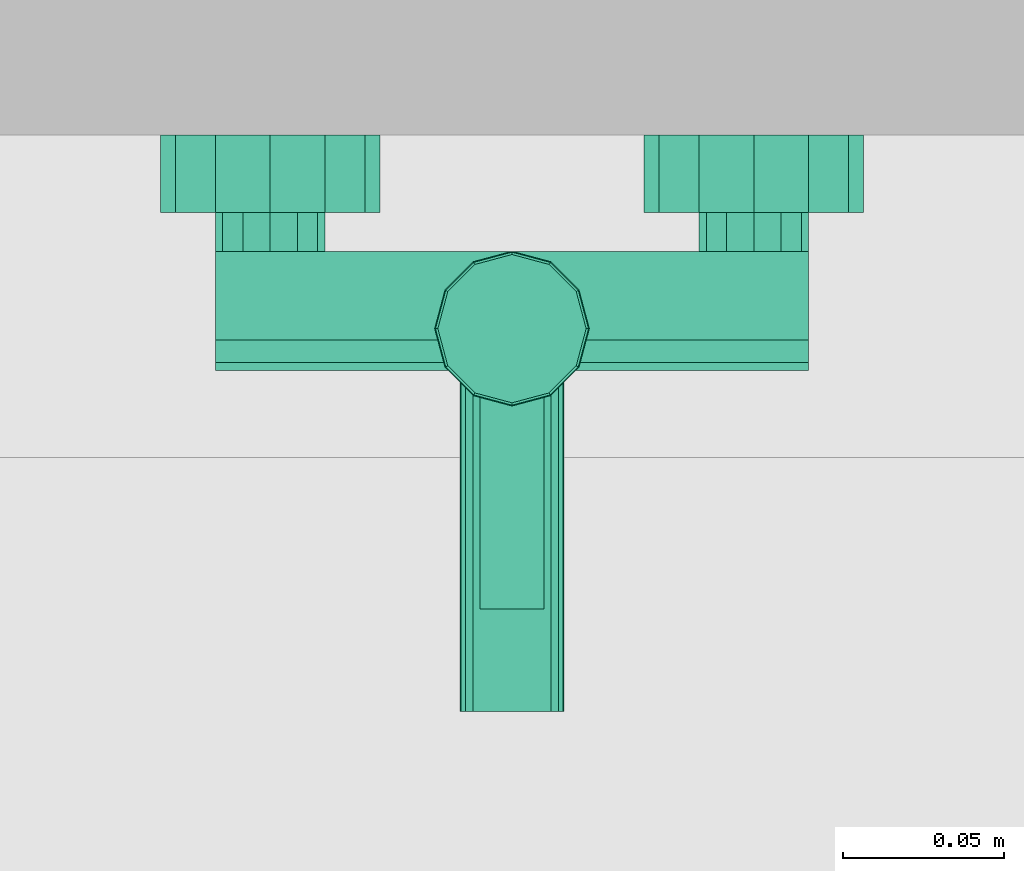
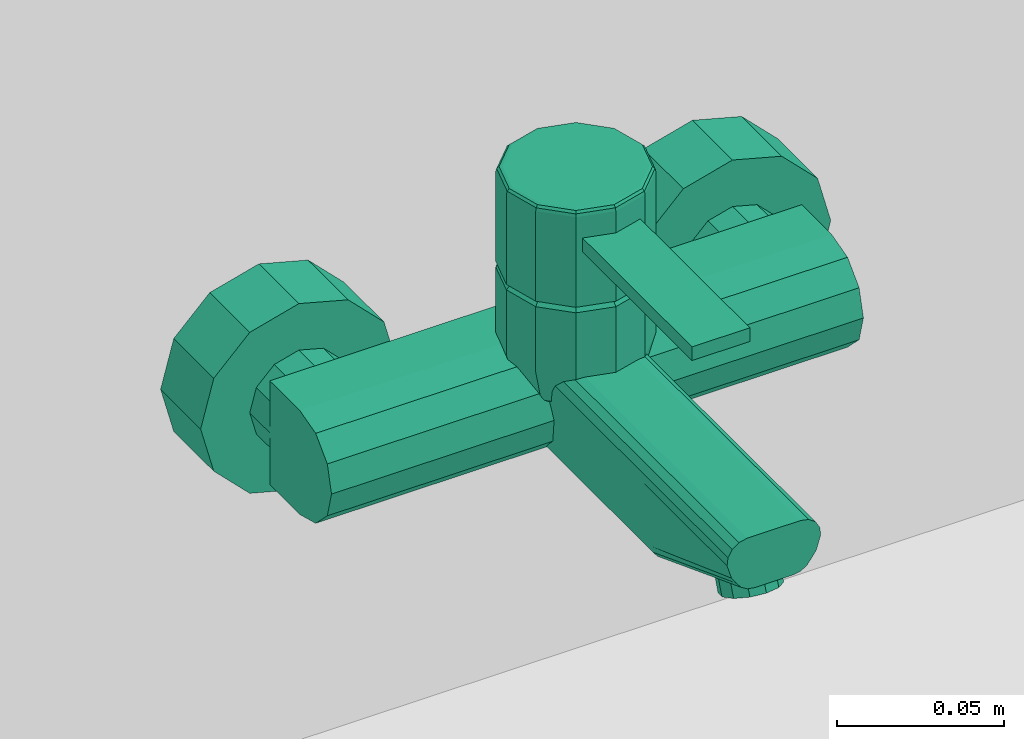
# One storey, part 253 of 301: 1 flow terminal.
"""IFC2X3 building model written with IfcOpenShell, lengths in millimetres."""

from ifc_helpers import new_model, entity, si_unit, converted_unit, derived_unit, money_unit, direction, frame, origin_with_axes, place, context, subcontext, project, spatial, faceted_brep, source, transform, mapped, type_object, element, save


model = new_model("IFC2X3")

# Units and contexts
model_context = context("Model", 3, precision=0.01, world=origin_with_axes(), true_north=direction((0.0, 1.0)))
body_context = subcontext(model_context, "Body", "Model", "MODEL_VIEW")
ifc_project = project(units=[si_unit("LENGTHUNIT", "METRE", prefix="MILLI"), si_unit("AREAUNIT", "SQUARE_METRE"), si_unit("VOLUMEUNIT", "CUBIC_METRE"), converted_unit("PLANEANGLEUNIT", "DEGREE", entity("IfcPlaneAngleMeasure", 0.0174532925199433), si_unit("PLANEANGLEUNIT", "RADIAN"), dimensions=[0, 0, 0, 0, 0, 0, 0]), money_unit("EUR"), converted_unit("TIMEUNIT", "Year", entity("IfcTimeMeasure", 31557600.0), si_unit("TIMEUNIT", "SECOND"), dimensions=[0, 0, 1, 0, 0, 0, 0]), si_unit("MASSUNIT", "GRAM", prefix="KILO"), si_unit("THERMODYNAMICTEMPERATUREUNIT", "DEGREE_CELSIUS"), si_unit("LUMINOUSINTENSITYUNIT", "LUMEN"), si_unit("ENERGYUNIT", "JOULE", prefix="MEGA"), derived_unit("THERMALCONDUCTANCEUNIT", [(si_unit("POWERUNIT", "WATT"), 1), (si_unit("LENGTHUNIT", "METRE"), -1), (si_unit("THERMODYNAMICTEMPERATUREUNIT", "KELVIN"), -1)]), derived_unit("SPECIFICHEATCAPACITYUNIT", [(si_unit("ENERGYUNIT", "JOULE"), 1), (si_unit("MASSUNIT", "GRAM", prefix="KILO"), -1), (si_unit("THERMODYNAMICTEMPERATUREUNIT", "KELVIN"), -1)]), derived_unit("MASSDENSITYUNIT", [(si_unit("MASSUNIT", "GRAM", prefix="KILO"), 1), (si_unit("VOLUMEUNIT", "CUBIC_METRE"), -1)])], contexts=[model_context])

# Site, building, storey
site_placement = place(None, frame((0.0, 0.0, 8650.0), z_axis=(0.0, 0.0, 1.0), x_axis=(1.0, 0.0, 0.0)))
site = spatial("IfcSite", under=ifc_project, at=site_placement, Name="43301:001:0844", CompositionType="ELEMENT")
building_placement = place(site_placement, origin_with_axes())
building = spatial("IfcBuilding", under=site, at=building_placement, Name="Kuressaare Ametikooli tuulikute mehaanikute õppekorpus", CompositionType="ELEMENT")
storey_placement = place(building_placement, origin_with_axes())
storey = spatial("IfcBuildingStorey", under=building, at=storey_placement, Name="1.korrus", CompositionType="ELEMENT", Elevation=0.0)

# Flow terminal
sanitary_terminal_type = type_object("IfcSanitaryTerminalType", Name="Wall Mounted Tap 27", PredefinedType="NOTDEFINED")
shared_shape = source(origin_with_axes(), body_context, "Body", "Brep", [
    faceted_brep([(-45.55513627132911, 0.0, 1033.0), (-58.00000000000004, 0.0, 1020.555136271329), (-75.00000000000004, 0.0, 1016.0), (-92.00000000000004, 0.0, 1020.555136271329), (-104.4448637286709, 0.0, 1033.0), (-109.0, 0.0, 1050.0), (-104.4448637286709, 0.0, 1067.0), (-92.0, 0.0, 1079.444863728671), (-75.0, 0.0, 1084.0), (-58.0, 0.0, 1079.444863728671), (-45.5551362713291, 0.0, 1067.0), (-41.00000000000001, 0.0, 1050.0), (-45.55513627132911, -24.0, 1033.0), (-58.00000000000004, -24.0, 1020.555136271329), (-75.00000000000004, -24.0, 1016.0), (-92.00000000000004, -24.0, 1020.555136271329), (-104.4448637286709, -24.0, 1033.0), (-109.0, -24.0, 1050.0), (-104.4448637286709, -24.0, 1067.0), (-92.0, -24.0, 1079.444863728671), (-75.0, -24.0, 1084.0), (-58.0, -24.0, 1079.444863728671), (-45.5551362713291, -24.0, 1067.0), (-41.00000000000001, -24.0, 1050.0)], [[[0, 1, 2, 3, 4, 5, 6, 7, 8, 9, 10, 11]], [[1, 0, 12, 13]], [[2, 1, 13, 14]], [[3, 2, 14, 15]], [[4, 3, 15, 16]], [[5, 4, 16, 17]], [[6, 5, 17, 18]], [[7, 6, 18, 19]], [[8, 7, 19, 20]], [[9, 8, 20, 21]], [[10, 9, 21, 22]], [[11, 10, 22, 23]], [[0, 11, 23, 12]], [[12, 23, 22, 21, 20, 19, 18, 17, 16, 15, 14, 13]]]),
    faceted_brep([(-60.27756813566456, -24.0, 1041.5), (-66.50000000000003, -24.0, 1035.277568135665), (-75.00000000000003, -24.0, 1033.0), (-83.50000000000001, -24.0, 1035.277568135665), (-89.72243186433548, -24.0, 1041.5), (-92.00000000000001, -24.0, 1050.0), (-89.72243186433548, -24.0, 1058.5), (-83.5, -24.0, 1064.722431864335), (-75.00000000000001, -24.0, 1067.0), (-66.5, -24.0, 1064.722431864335), (-60.27756813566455, -24.0, 1058.5), (-58.00000000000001, -24.0, 1050.0), (-60.27756813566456, -36.00000000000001, 1041.5), (-66.50000000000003, -36.00000000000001, 1035.277568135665), (-75.00000000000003, -36.00000000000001, 1033.0), (-83.50000000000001, -36.00000000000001, 1035.277568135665), (-89.72243186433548, -36.00000000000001, 1041.5), (-92.00000000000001, -36.00000000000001, 1050.0), (-89.72243186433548, -36.00000000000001, 1058.5), (-83.5, -36.0, 1064.722431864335), (-75.00000000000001, -36.0, 1067.0), (-66.5, -36.0, 1064.722431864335), (-60.27756813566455, -36.00000000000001, 1058.5), (-58.00000000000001, -36.00000000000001, 1050.0)], [[[0, 1, 2, 3, 4, 5, 6, 7, 8, 9, 10, 11]], [[1, 0, 12, 13]], [[2, 1, 13, 14]], [[3, 2, 14, 15]], [[4, 3, 15, 16]], [[5, 4, 16, 17]], [[6, 5, 17, 18]], [[7, 6, 18, 19]], [[8, 7, 19, 20]], [[9, 8, 20, 21]], [[10, 9, 21, 22]], [[11, 10, 22, 23]], [[0, 11, 23, 12]], [[12, 23, 22, 21, 20, 19, 18, 17, 16, 15, 14, 13]]]),
    faceted_brep([(45.55513627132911, 0.0, 1033.0), (41.00000000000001, 0.0, 1050.0), (45.5551362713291, 0.0, 1067.0), (58.0, 0.0, 1079.444863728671), (75.0, 0.0, 1084.0), (92.0, 0.0, 1079.444863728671), (104.4448637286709, 0.0, 1067.0), (109.0, 0.0, 1050.0), (104.4448637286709, 0.0, 1033.0), (92.00000000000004, 0.0, 1020.555136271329), (75.00000000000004, 0.0, 1016.0), (58.00000000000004, 0.0, 1020.555136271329), (45.55513627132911, -24.0, 1033.0), (41.00000000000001, -24.0, 1050.0), (45.5551362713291, -24.0, 1067.0), (58.0, -24.0, 1079.444863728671), (75.0, -24.0, 1084.0), (92.0, -24.0, 1079.444863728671), (104.4448637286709, -24.0, 1067.0), (109.0, -24.0, 1050.0), (104.4448637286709, -24.0, 1033.0), (92.00000000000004, -24.0, 1020.555136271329), (75.00000000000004, -24.0, 1016.0), (58.00000000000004, -24.0, 1020.555136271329)], [[[0, 1, 2, 3, 4, 5, 6, 7, 8, 9, 10, 11]], [[0, 12, 13, 1]], [[1, 13, 14, 2]], [[2, 14, 15, 3]], [[3, 15, 16, 4]], [[4, 16, 17, 5]], [[5, 17, 18, 6]], [[6, 18, 19, 7]], [[7, 19, 20, 8]], [[8, 20, 21, 9]], [[9, 21, 22, 10]], [[10, 22, 23, 11]], [[11, 23, 12, 0]], [[12, 23, 22, 21, 20, 19, 18, 17, 16, 15, 14, 13]]]),
    faceted_brep([(60.27756813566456, -24.0, 1041.5), (58.00000000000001, -24.0, 1050.0), (60.27756813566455, -24.0, 1058.5), (66.5, -24.0, 1064.722431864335), (75.00000000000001, -24.0, 1067.0), (83.5, -24.0, 1064.722431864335), (89.72243186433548, -24.0, 1058.5), (92.00000000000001, -24.0, 1050.0), (89.72243186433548, -24.0, 1041.5), (83.50000000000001, -24.0, 1035.277568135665), (75.00000000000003, -24.0, 1033.0), (66.50000000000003, -24.0, 1035.277568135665), (60.27756813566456, -36.00000000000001, 1041.5), (58.00000000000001, -36.00000000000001, 1050.0), (60.27756813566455, -36.00000000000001, 1058.5), (66.5, -36.0, 1064.722431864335), (75.00000000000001, -36.0, 1067.0), (83.5, -36.0, 1064.722431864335), (89.72243186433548, -36.00000000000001, 1058.5), (92.00000000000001, -36.00000000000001, 1050.0), (89.72243186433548, -36.00000000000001, 1041.5), (83.50000000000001, -36.00000000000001, 1035.277568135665), (75.00000000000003, -36.00000000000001, 1033.0), (66.50000000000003, -36.00000000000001, 1035.277568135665)], [[[0, 1, 2, 3, 4, 5, 6, 7, 8, 9, 10, 11]], [[0, 12, 13, 1]], [[1, 13, 14, 2]], [[2, 14, 15, 3]], [[3, 15, 16, 4]], [[4, 16, 17, 5]], [[5, 17, 18, 6]], [[6, 18, 19, 7]], [[7, 19, 20, 8]], [[8, 20, 21, 9]], [[9, 21, 22, 10]], [[10, 22, 23, 11]], [[11, 23, 12, 0]], [[12, 23, 22, 21, 20, 19, 18, 17, 16, 15, 14, 13]]]),
    faceted_brep([(22.39230484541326, -54.0, 1069.0), (23.56921938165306, -59.99999999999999, 1067.392304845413), (22.3801085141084, -63.5, 1066.454482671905), (92.0, -63.5, 1066.454482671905), (92.0, -54.0, 1069.0), (24.0, -59.99999999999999, 1069.0), (20.78460969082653, -72.0, 1069.0), (18.42264973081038, -70.63632178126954, 1058.821367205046), (18.65321248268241, -70.45448267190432, 1059.5), (92.0, -70.45448267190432, 1059.5), (92.0, -36.00000000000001, 1031.0), (92.0, -36.00000000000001, 1069.0), (92.0, -73.00000000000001, 1050.0), (92.0, -70.45448267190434, 1040.5), (92.0, -63.5, 1033.545517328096), (92.0, -54.00000000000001, 1031.0), (20.78460969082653, -47.99999999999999, 1069.0), (0.0, -36.00000000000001, 1069.0), (12.0, -39.21539030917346, 1069.0), (20.78460969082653, -47.99999999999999, 1093.0), (24.0, -59.99999999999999, 1093.0), (20.78460969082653, -72.0, 1093.0), (17.26794919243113, -71.12435565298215, 1057.0), (12.00000000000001, -80.78460969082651, 1069.0), (11.92314238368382, -80.65148839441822, 1068.426326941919), (12.07189135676, -80.49116546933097, 1068.39470631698), (14.42686544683, -77.50984837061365, 1066.68350539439), (15.88213414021, -75.13176694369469, 1064.16233412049), (16.18602173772, -73.76818909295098, 1061.26720650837), (15.73684210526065, -72.65546274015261, 1057.0), (15.6314139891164, -71.39272474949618, 1055.998432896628), (14.99999999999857, -73.00000000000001, 1050.0), (-92.0, -36.00000000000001, 1031.0), (-92.0, -36.00000000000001, 1069.0), (14.00000000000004, -70.45448267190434, 1040.5), (12.93483876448, -64.77581392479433, 1034.82133125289), (11.95567316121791, -63.5, 1033.545517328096), (13.65970594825, -67.22168918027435, 1037.26720650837), (9.206486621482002, -55.73480068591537, 1031.46483844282), (6.698167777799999, -54.00000000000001, 1031.0), (11.38167317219, -60.70880215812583, 1032.79761812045), (-6.698167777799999, -54.00000000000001, 1031.0), (-92.0, -54.00000000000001, 1031.0), (6.698167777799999, -128.7, 1031.0), (-6.698167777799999, -128.7, 1031.0), (0.0, -36.00000000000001, 1093.0), (12.0, -39.21539030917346, 1093.0), (19.05255888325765, -48.99999999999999, 1095.0), (22.0, -59.99999999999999, 1095.0), (19.05255888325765, -71.0, 1095.0), (12.00000000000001, -80.78460969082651, 1093.0), (9.224483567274, -81.52830707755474, 1069.0), (9.224483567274, -178.7, 1069.0), (12.07189135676, -178.7, 1068.39470631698), (14.42686544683, -178.7, 1066.68350539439), (15.88213414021, -178.7, 1064.16233412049), (16.18602173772, -178.7, 1061.26720650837), (13.65970594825, -128.7, 1037.26720650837), (-92.0, -54.0, 1069.0), (-92.0, -63.5, 1033.545517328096), (-92.0, -70.45448267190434, 1040.5), (-92.0, -73.00000000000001, 1050.0), (-92.0, -70.45448267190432, 1059.5), (-92.0, -63.5, 1066.454482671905), (-12.00000000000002, -39.21539030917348, 1069.0), (-22.39230484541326, -54.0, 1069.0), (-20.78460969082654, -48.00000000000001, 1069.0), (12.93483876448, -128.7, 1034.82133125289), (11.38167317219, -128.7, 1032.79761812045), (9.206486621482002, -128.7, 1031.46483844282), (-11.38167317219, -60.70880215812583, 1032.79761812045), (-11.95567316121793, -63.5, 1033.545517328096), (-9.206486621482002, -55.73480068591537, 1031.46483844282), (-6.698167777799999, -156.6122297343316, 1041.606647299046), (6.698167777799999, -156.6122297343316, 1041.606647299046), (5.000000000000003, -155.02481037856, 1041.003427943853), (0.0, -153.7724378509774, 1040.527526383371), (-4.999999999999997, -155.02481037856, 1041.003427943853), (-9.206486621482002, -128.7, 1031.46483844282), (-12.00000000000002, -39.21539030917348, 1093.0), (0.0, -38.00000000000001, 1095.0), (11.0, -40.94744111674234, 1095.0), (-20.78460969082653, -47.99999999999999, 1095.0), (-12.0, -39.21539030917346, 1095.0), (0.0, -36.00000000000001, 1095.0), (12.00000000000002, -39.21539030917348, 1095.0), (20.78460969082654, -48.00000000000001, 1095.0), (24.0, -60.00000000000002, 1095.0), (20.78460969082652, -72.00000000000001, 1095.0), (11.99999999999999, -80.78460969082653, 1095.0), (0.0, -83.99999999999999, 1095.0), (-12.00000000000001, -80.78460969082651, 1095.0), (-20.78460969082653, -72.0, 1095.0), (-24.0, -59.99999999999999, 1095.0), (11.00000000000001, -79.05255888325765, 1095.0), (-11.00000000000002, -40.94744111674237, 1095.0), (-19.05255888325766, -49.00000000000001, 1095.0), (-22.0, -60.00000000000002, 1095.0), (-19.05255888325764, -71.00000000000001, 1095.0), (-10.99999999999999, -79.05255888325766, 1095.0), (0.0, -81.99999999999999, 1095.0), (0.0, -83.99999999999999, 1093.0), (0.0, -83.99999999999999, 1069.0), (-15.88213414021, -178.7, 1064.16233412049), (-16.18602173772, -178.7, 1061.26720650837), (-14.65970594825, -178.7, 1056.26720650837), (-12.93483876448, -178.7, 1053.82133125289), (-11.38167317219, -178.7, 1051.79761812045), (-9.206486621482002, -178.7, 1050.46483844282), (-6.698167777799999, -178.7, 1050.0), (6.698167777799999, -178.7, 1050.0), (9.206486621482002, -178.7, 1050.46483844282), (11.38167317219, -178.7, 1051.79761812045), (12.93483876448, -178.7, 1053.82133125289), (14.65970594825, -178.7, 1056.26720650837), (-9.224483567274, -178.7, 1069.0), (-12.07189135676, -178.7, 1068.39470631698), (-14.42686544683, -178.7, 1066.68350539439), (-9.224483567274, -81.52830707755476, 1069.0), (-13.65970594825, -67.22168918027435, 1037.26720650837), (-14.00000000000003, -70.45448267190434, 1040.5), (-12.93483876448, -64.77581392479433, 1034.82133125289), (-14.99999999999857, -73.00000000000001, 1050.0), (-18.42264973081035, -70.63632178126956, 1058.821367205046), (-18.65321248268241, -70.45448267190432, 1059.5), (-15.63141398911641, -71.39272474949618, 1055.998432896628), (-17.26794919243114, -71.12435565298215, 1057.0), (-22.38010851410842, -63.5, 1066.454482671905), (-23.56921938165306, -60.00000000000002, 1067.392304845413), (-24.0, -60.00000000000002, 1069.0), (-24.0, -60.00000000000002, 1093.0), (-20.78460969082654, -48.00000000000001, 1093.0), (9.206486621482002, -160.1976250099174, 1043.433935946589), (8.660254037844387, -158.3256179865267, 1042.621346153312), (9.206486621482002, -165.7342214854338, 1045.537842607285), (10.0, -162.8044792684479, 1044.910741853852), (-11.38167317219, -128.7, 1032.79761812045), (-12.93483876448, -128.7, 1034.82133125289), (-9.206486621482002, -160.1976250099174, 1043.433935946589), (-8.660254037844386, -158.3256179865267, 1042.621346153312), (8.660254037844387, -160.222444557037, 1037.629697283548), (5.000000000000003, -156.8008991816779, 1036.329510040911), (0.0, -155.5485266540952, 1035.85360848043), (-4.999999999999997, -156.8008991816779, 1036.329510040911), (-8.660254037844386, -160.222444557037, 1037.629697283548), (-20.78460969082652, -47.99999999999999, 1128.0), (-12.0, -39.21539030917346, 1128.0), (0.0, -36.00000000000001, 1128.0), (12.00000000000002, -39.21539030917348, 1128.0), (20.78460969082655, -48.00000000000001, 1128.0), (24.0, -60.00000000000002, 1128.0), (20.78460969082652, -72.00000000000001, 1128.0), (11.99999999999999, -80.78460969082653, 1128.0), (0.0, -83.99999999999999, 1128.0), (0.0, -83.99999999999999, 1120.0), (10.0, -81.32050807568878, 1120.0), (10.0, -81.32050807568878, 1115.0), (0.0, -83.99999999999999, 1115.0), (-10.0, -81.32050807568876, 1115.0), (-10.0, -81.32050807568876, 1120.0), (-12.00000000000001, -80.78460969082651, 1128.0), (-20.78460969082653, -72.0, 1128.0), (-24.0, -59.99999999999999, 1128.0), (-20.78460969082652, -72.00000000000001, 1093.0), (-11.99999999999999, -80.78460969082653, 1093.0), (-11.99999999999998, -80.78460969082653, 1069.0), (-15.88213414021, -75.1317669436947, 1064.16233412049), (-16.18602173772, -73.76818909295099, 1061.26720650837), (-16.18602173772, -128.7, 1061.26720650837), (-13.65970594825, -128.7, 1037.26720650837), (-10.0, -162.8044792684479, 1044.910741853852), (-9.206486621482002, -165.7342214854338, 1045.537842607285), (-8.66025403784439, -167.6734537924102, 1046.173523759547), (-6.698167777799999, -169.6283175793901, 1046.552760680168), (0.0, -172.4681094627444, 1047.631881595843), (4.999999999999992, -171.2157369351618, 1047.155980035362), (6.698167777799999, -169.6283175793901, 1046.552760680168), (-5.000000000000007, -171.2157369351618, 1047.155980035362), (8.660254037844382, -167.6734537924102, 1046.173523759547), (-11.92314238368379, -80.65148839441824, 1068.426326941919), (-12.07189135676, -80.49116546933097, 1068.39470631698), (-14.42686544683, -77.50984837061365, 1066.68350539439), (-15.73684210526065, -72.65546274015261, 1057.0), (-20.78460969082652, -72.00000000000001, 1069.0), (10.0, -164.8963624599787, 1039.405786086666), (8.660254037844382, -169.5702803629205, 1041.181874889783), (-10.0, -164.8963624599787, 1039.405786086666), (4.999999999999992, -172.9918257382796, 1042.48206213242), (0.0, -174.2441982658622, 1042.957963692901), (-5.000000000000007, -172.9918257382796, 1042.48206213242), (-8.66025403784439, -169.5702803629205, 1041.181874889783), (-20.55255888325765, -48.13397459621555, 1129.0), (-11.86602540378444, -39.44744111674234, 1129.0), (0.0, -36.26794919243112, 1129.0), (11.86602540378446, -39.44744111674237, 1129.0), (20.55255888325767, -48.13397459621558, 1129.0), (23.73205080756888, -60.00000000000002, 1129.0), (20.55255888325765, -71.86602540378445, 1129.0), (11.86602540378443, -80.55255888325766, 1129.0), (10.0, -147.0, 1120.0), (-10.0, -147.0, 1120.0), (10.0, -147.0, 1115.0), (-10.0, -147.0, 1115.0), (0.0, -83.73205080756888, 1129.0), (-11.86602540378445, -80.55255888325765, 1129.0), (-20.55255888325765, -71.86602540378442, 1129.0), (-23.73205080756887, -59.99999999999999, 1129.0), (-19.91858428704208, -48.49999999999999, 1129.732050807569), (-11.5, -40.08141571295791, 1129.732050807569), (0.0, -37.00000000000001, 1129.732050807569), (11.50000000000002, -40.08141571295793, 1129.732050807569), (19.9185842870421, -48.50000000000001, 1129.732050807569), (23.0, -60.00000000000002, 1129.732050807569), (19.91858428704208, -71.50000000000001, 1129.732050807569), (11.49999999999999, -79.9185842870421, 1129.732050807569), (0.0, -82.99999999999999, 1129.732050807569), (-11.50000000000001, -79.91858428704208, 1129.732050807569), (-19.91858428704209, -71.5, 1129.732050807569), (-23.0, -59.99999999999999, 1129.732050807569), (-19.05255888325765, -48.99999999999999, 1130.0), (-11.0, -40.94744111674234, 1130.0), (0.0, -38.00000000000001, 1130.0), (11.00000000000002, -40.94744111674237, 1130.0), (19.05255888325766, -49.00000000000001, 1130.0), (22.0, -60.00000000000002, 1130.0), (19.05255888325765, -71.00000000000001, 1130.0), (10.99999999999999, -79.05255888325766, 1130.0), (0.0, -81.99999999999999, 1130.0), (-11.00000000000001, -79.05255888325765, 1130.0), (-19.05255888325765, -71.0, 1130.0), (-22.0, -59.99999999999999, 1130.0), (0.0, -60.0, 1130.0)], [[[0, 1, 2, 3, 4]], [[1, 0, 5]], [[2, 1, 5, 6, 7, 8]], [[2, 8, 9, 3]], [[10, 11, 4, 3, 9, 12, 13, 14, 15]], [[16, 0, 4, 11, 17, 18]], [[0, 16, 19, 20, 5]], [[20, 21, 6, 5]], [[22, 7, 6, 23, 24, 25, 26, 27, 28, 29]], [[30, 31, 12, 9, 8, 7, 22]], [[10, 32, 33, 17, 11]], [[31, 34, 13, 12]], [[35, 36, 14, 13, 34, 37]], [[38, 39, 15, 14, 36, 40]], [[41, 42, 32, 10, 15, 39, 43, 44]], [[18, 17, 45, 46]], [[16, 18, 46, 19]], [[19, 47, 48, 20]], [[20, 48, 49, 21]], [[21, 50, 23, 6]], [[23, 51, 24]], [[52, 53, 25, 24, 51]], [[53, 54, 26, 25]], [[54, 55, 27, 26]], [[56, 28, 27, 55]], [[31, 30, 29, 28, 56, 57, 37, 34]], [[30, 22, 29]], [[58, 33, 32, 42, 59, 60, 61, 62, 63]], [[64, 17, 33, 58, 65, 66]], [[36, 35, 67, 68, 40]], [[35, 37, 57, 67]], [[39, 38, 69, 43]], [[38, 40, 68, 69]], [[70, 71, 59, 42, 41, 72]], [[73, 44, 43, 74, 75, 76, 77]], [[72, 41, 44, 78]], [[17, 64, 79, 45]], [[45, 80, 81, 46]], [[46, 81, 47, 19]], [[82, 83, 84, 85, 86, 87, 88, 89, 90, 91, 92, 93], [94, 49, 48, 47, 81, 80, 95, 96, 97, 98, 99, 100]], [[21, 49, 94, 50]], [[101, 102, 51, 23, 50]], [[103, 104, 105, 106, 107, 108, 109, 110, 111, 112, 113, 114, 56, 55, 54, 53, 52, 115, 116, 117]], [[115, 52, 51, 102, 118]], [[56, 114, 57]], [[119, 120, 60, 59, 71, 121]], [[120, 122, 61, 60]], [[123, 124, 62, 61, 122, 125, 126]], [[124, 127, 63, 62]], [[128, 65, 58, 63, 127]], [[66, 65, 129, 130, 131]], [[64, 66, 131, 79]], [[112, 68, 67, 113]], [[114, 67, 57]], [[74, 43, 69, 132, 133]], [[132, 69, 68, 112, 111, 134, 135]], [[71, 70, 136, 137, 121]], [[70, 72, 78, 136]], [[138, 78, 44, 73, 139]], [[75, 74, 133, 140, 141]], [[142, 76, 75, 141]], [[143, 77, 76, 142]], [[139, 73, 77, 143, 144]], [[79, 95, 80, 45]], [[83, 82, 145, 146]], [[84, 83, 146, 147]], [[85, 84, 147, 148]], [[86, 85, 148, 149]], [[87, 86, 149, 150]], [[88, 87, 150, 151]], [[89, 88, 151, 152]], [[153, 154, 155, 156, 157, 90, 89, 152]], [[158, 159, 154, 153, 160, 91, 90, 157]], [[92, 91, 160, 161]], [[93, 92, 161, 162]], [[82, 93, 162, 145]], [[131, 96, 95, 79]], [[130, 97, 96, 131]], [[163, 98, 97, 130]], [[164, 99, 98, 163]], [[101, 100, 99, 164]], [[50, 94, 100, 101]], [[165, 118, 102, 101, 164]], [[104, 103, 166, 167, 168]], [[105, 104, 168]], [[106, 105, 169]], [[106, 137, 136, 107]], [[107, 136, 78, 138, 170, 171, 108]], [[171, 172, 173, 109, 108]], [[174, 175, 176, 110, 109, 173, 177]], [[176, 178, 134, 111, 110]], [[114, 113, 67]], [[116, 115, 118, 179, 180]], [[117, 116, 180, 181]], [[103, 117, 181, 166]], [[120, 119, 169, 168, 167, 182, 125, 122]], [[119, 121, 137, 169]], [[124, 123, 183, 129, 128, 127]], [[126, 125, 182]], [[123, 126, 182, 167, 166, 181, 180, 179, 165, 183]], [[65, 128, 129]], [[163, 130, 129, 183]], [[133, 132, 135, 184, 140]], [[135, 134, 178, 185, 184]], [[170, 138, 139, 144, 186]], [[140, 184, 185, 187, 188, 189, 190, 186, 144, 143, 142, 141]], [[146, 145, 191, 192]], [[147, 146, 192, 193]], [[148, 147, 193, 194]], [[149, 148, 194, 195]], [[150, 149, 195, 196]], [[151, 150, 196, 197]], [[152, 151, 197, 198]], [[199, 155, 154, 159, 200]], [[201, 156, 155, 199]], [[158, 157, 156, 201, 202]], [[153, 152, 198, 203]], [[200, 159, 158, 202]], [[160, 153, 203, 204]], [[161, 160, 204, 205]], [[162, 161, 205, 206]], [[145, 162, 206, 191]], [[164, 163, 183, 165]], [[165, 179, 118]], [[105, 168, 169]], [[106, 169, 137]], [[172, 171, 170, 186, 190]], [[177, 173, 172, 190, 189]], [[187, 175, 174, 188]], [[178, 176, 175, 187, 185]], [[188, 174, 177, 189]], [[192, 191, 207, 208]], [[193, 192, 208, 209]], [[194, 193, 209, 210]], [[195, 194, 210, 211]], [[196, 195, 211, 212]], [[197, 196, 212, 213]], [[198, 197, 213, 214]], [[199, 200, 202, 201]], [[203, 198, 214, 215]], [[204, 203, 215, 216]], [[205, 204, 216, 217]], [[206, 205, 217, 218]], [[191, 206, 218, 207]], [[208, 207, 219, 220]], [[209, 208, 220, 221]], [[210, 209, 221, 222]], [[211, 210, 222, 223]], [[212, 211, 223, 224]], [[213, 212, 224, 225]], [[214, 213, 225, 226]], [[215, 214, 226, 227]], [[216, 215, 227, 228]], [[217, 216, 228, 229]], [[218, 217, 229, 230]], [[207, 218, 230, 219]], [[220, 219, 231]], [[221, 220, 231]], [[222, 221, 231]], [[223, 222, 231]], [[224, 223, 231]], [[225, 224, 231]], [[226, 225, 231]], [[227, 226, 231]], [[228, 227, 231]], [[229, 228, 231]], [[230, 229, 231]], [[219, 230, 231]]]),
])
flow_terminal_placement = place(storey_placement, frame((106455.5124300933, 17764.79956493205, 0.0), z_axis=(0.0, 0.0, 1.0), x_axis=(1.0, 0.0, 0.0)))
element("IfcFlowTerminal", 1, at=flow_terminal_placement, inside=storey, type_object=sanitary_terminal_type, Name="V", context=body_context, shape_type="MappedRepresentation", body=[
    mapped(shared_shape, transform((0.0, 0.0, 0.0))),
])

save(model, "model.ifc")
